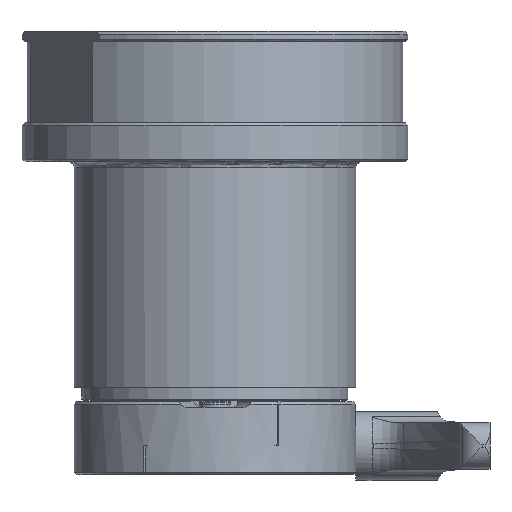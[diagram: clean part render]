
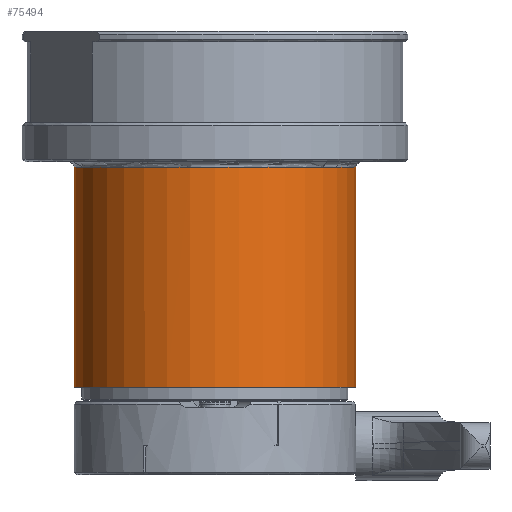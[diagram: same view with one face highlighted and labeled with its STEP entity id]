
A CAD part, left-side view. The second image highlights one B-rep face of the part: STEP entity #75494.
In plain terms, the highlighted cylindrical face has radius 54 mm (diameter 108 mm), a partial arc.
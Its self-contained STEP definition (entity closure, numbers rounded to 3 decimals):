
#6992=CARTESIAN_POINT('',(0.,0.,-70.75));
#6993=DIRECTION('',(0.,0.,1.));
#6994=DIRECTION('',(0.,1.,0.));
#6995=AXIS2_PLACEMENT_3D('',#6992,#6993,#6994);
#7007=DIRECTION('',(0.,0.,1.));
#7008=VECTOR('',#7007,84.5);
#7009=CARTESIAN_POINT('',(0.,54.,-70.75));
#7010=LINE('',#7009,#7008);
#7011=CARTESIAN_POINT('',(0.,0.,13.75));
#7012=DIRECTION('',(0.,0.,1.));
#7013=DIRECTION('',(0.,1.,0.));
#7014=AXIS2_PLACEMENT_3D('',#7011,#7012,#7013);
#7016=CARTESIAN_POINT('',(0.,0.,13.75));
#7017=DIRECTION('',(0.,0.,1.));
#7018=DIRECTION('',(-1.,0.001,0.));
#7019=AXIS2_PLACEMENT_3D('',#7016,#7017,#7018);
#7021=DIRECTION('',(0.,0.,-1.));
#7022=VECTOR('',#7021,84.5);
#7023=CARTESIAN_POINT('',(0.,-54.,13.75));
#7024=LINE('',#7023,#7022);
#58945=CARTESIAN_POINT('',(0.,-54.,13.75));
#58946=VERTEX_POINT('',#58945);
#58947=CARTESIAN_POINT('',(-54.,0.08,13.75));
#58948=VERTEX_POINT('',#58947);
#58949=CARTESIAN_POINT('',(0.,54.,13.75));
#58950=VERTEX_POINT('',#58949);
#58974=CARTESIAN_POINT('',(0.,-54.,-70.75));
#58975=CARTESIAN_POINT('',(0.,54.,-70.75));
#58976=VERTEX_POINT('',#58974);
#58977=VERTEX_POINT('',#58975);
#75482=CARTESIAN_POINT('',(0.,0.,15.44));
#75483=DIRECTION('',(0.,0.,-1.));
#75484=DIRECTION('',(0.,-1.,0.));
#75485=AXIS2_PLACEMENT_3D('',#75482,#75483,#75484);
#75486=CYLINDRICAL_SURFACE('',#75485,54.);
#75487=ORIENTED_EDGE('',*,*,#75464,.F.);
#75488=ORIENTED_EDGE('',*,*,#75446,.T.);
#75489=ORIENTED_EDGE('',*,*,#75142,.T.);
#75490=ORIENTED_EDGE('',*,*,#75140,.T.);
#75491=ORIENTED_EDGE('',*,*,#75442,.T.);
#75492=EDGE_LOOP('',(#75487,#75488,#75489,#75490,#75491));
#75493=FACE_OUTER_BOUND('',#75492,.F.);
#6996=CIRCLE('',#6995,54.);
#7015=CIRCLE('',#7014,54.);
#7020=CIRCLE('',#7019,54.);
#75140=EDGE_CURVE('',#58948,#58946,#7020,.T.);
#75142=EDGE_CURVE('',#58950,#58948,#7015,.T.);
#75442=EDGE_CURVE('',#58946,#58976,#7024,.T.);
#75446=EDGE_CURVE('',#58977,#58950,#7010,.T.);
#75464=EDGE_CURVE('',#58977,#58976,#6996,.T.);
#75494=ADVANCED_FACE('',(#75493),#75486,.T.);
